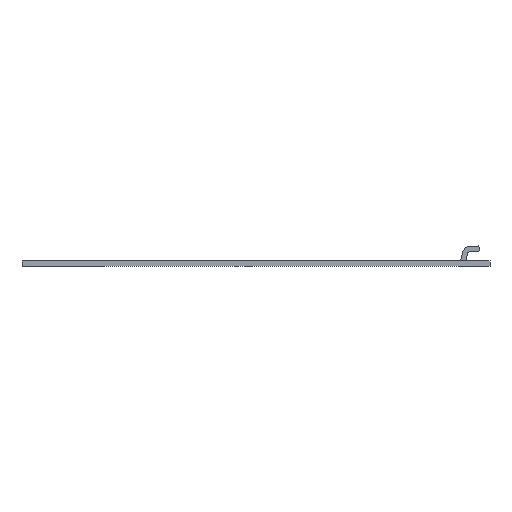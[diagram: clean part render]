
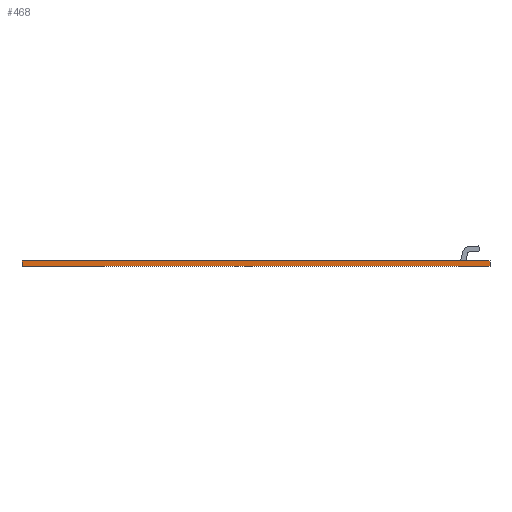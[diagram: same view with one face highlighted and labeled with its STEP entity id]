
A CAD part, front view. The second image highlights one B-rep face of the part: STEP entity #468.
In plain terms, the highlighted planar face has unit normal (0, -1, 0).
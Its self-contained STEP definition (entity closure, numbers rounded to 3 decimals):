
#4 = ORIENTED_EDGE ( 'NONE', *, *, #1635, .T. ) ;
#65 = CARTESIAN_POINT ( 'NONE',  ( -69., -380., 1.5 ) ) ;
#219 = ORIENTED_EDGE ( 'NONE', *, *, #1068, .F. ) ;
#251 = VECTOR ( 'NONE', #289, 1000. ) ;
#289 = DIRECTION ( 'NONE',  ( 0., 0., -1. ) ) ;
#320 = VECTOR ( 'NONE', #896, 1000. ) ;
#412 = AXIS2_PLACEMENT_3D ( 'NONE', #1479, #2227, #1067 ) ;
#464 = CARTESIAN_POINT ( 'NONE',  ( -69., -380., 0. ) ) ;
#468 = ADVANCED_FACE ( 'NONE', ( #1815 ), #1696, .F. ) ;
#587 = VECTOR ( 'NONE', #2474, 1000. ) ;
#700 = VERTEX_POINT ( 'NONE', #2466 ) ;
#703 = CARTESIAN_POINT ( 'NONE',  ( 69., -380., 1.5 ) ) ;
#723 = CARTESIAN_POINT ( 'NONE',  ( -69., -380., 1.5 ) ) ;
#890 = CARTESIAN_POINT ( 'NONE',  ( -69., -380., 1.5 ) ) ;
#896 = DIRECTION ( 'NONE',  ( 1., 0., 0. ) ) ;
#972 = EDGE_LOOP ( 'NONE', ( #4, #2184, #219, #1211 ) ) ;
#989 = LINE ( 'NONE', #65, #251 ) ;
#1067 = DIRECTION ( 'NONE',  ( 0., 0., 1. ) ) ;
#1068 = EDGE_CURVE ( 'NONE', #2004, #2550, #2461, .T. ) ;
#1085 = CARTESIAN_POINT ( 'NONE',  ( 69., -380., 1.5 ) ) ;
#1103 = EDGE_CURVE ( 'NONE', #2004, #1416, #989, .T. ) ;
#1211 = ORIENTED_EDGE ( 'NONE', *, *, #1103, .T. ) ;
#1381 = LINE ( 'NONE', #1085, #1906 ) ;
#1416 = VERTEX_POINT ( 'NONE', #2580 ) ;
#1479 = CARTESIAN_POINT ( 'NONE',  ( -69., -380., 1.5 ) ) ;
#1635 = EDGE_CURVE ( 'NONE', #1416, #700, #1742, .T. ) ;
#1696 = PLANE ( 'NONE',  #412 ) ;
#1742 = LINE ( 'NONE', #464, #587 ) ;
#1815 = FACE_OUTER_BOUND ( 'NONE', #972, .T. ) ;
#1902 = DIRECTION ( 'NONE',  ( 0., 0., -1. ) ) ;
#1906 = VECTOR ( 'NONE', #1902, 1000. ) ;
#2004 = VERTEX_POINT ( 'NONE', #723 ) ;
#2184 = ORIENTED_EDGE ( 'NONE', *, *, #2386, .F. ) ;
#2227 = DIRECTION ( 'NONE',  ( 0., 1., 0. ) ) ;
#2386 = EDGE_CURVE ( 'NONE', #2550, #700, #1381, .T. ) ;
#2461 = LINE ( 'NONE', #890, #320 ) ;
#2466 = CARTESIAN_POINT ( 'NONE',  ( 69., -380., 0. ) ) ;
#2474 = DIRECTION ( 'NONE',  ( 1., 0., 0. ) ) ;
#2550 = VERTEX_POINT ( 'NONE', #703 ) ;
#2580 = CARTESIAN_POINT ( 'NONE',  ( -69., -380., 0. ) ) ;
